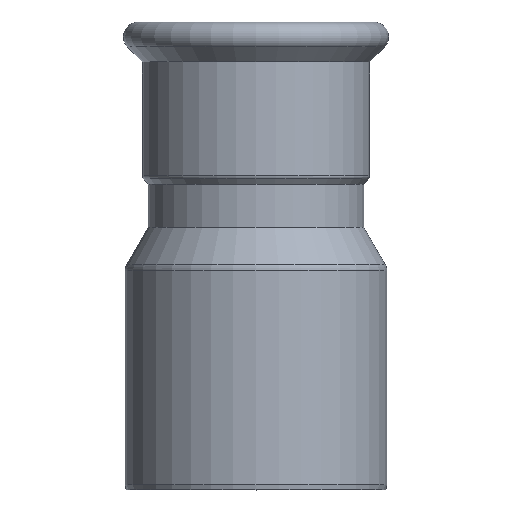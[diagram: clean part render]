
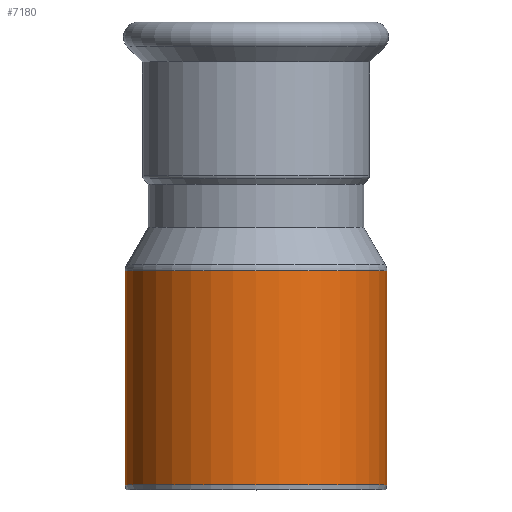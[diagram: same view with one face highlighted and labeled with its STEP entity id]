
A CAD part, top view. The second image highlights one B-rep face of the part: STEP entity #7180.
In plain terms, the highlighted cylindrical face has radius 54 mm (diameter 108 mm), a partial arc.
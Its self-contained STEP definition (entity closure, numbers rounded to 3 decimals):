
#530=CARTESIAN_POINT('',(-256.976,-16.977,0.));
#540=VERTEX_POINT('',#530);
#570=CARTESIAN_POINT('',(-202.976,-16.977,0.));
#580=DIRECTION('',(0.,-1.,0.));
#590=DIRECTION('',(-1.,0.,0.));
#600=AXIS2_PLACEMENT_3D('',#570,#580,#590);
#610=CIRCLE('',#600,54.);
#620=CARTESIAN_POINT('',(-148.976,-16.977,0.));
#630=VERTEX_POINT('',#620);
#1970=CARTESIAN_POINT('',(-202.976,33.421,0.));
#1980=DIRECTION('',(0.,-1.,0.));
#1990=DIRECTION('',(1.,0.,0.));
#2000=AXIS2_PLACEMENT_3D('',#1970,#1980,#1990);
#2010=CYLINDRICAL_SURFACE('',#2000,54.);
#2020=CARTESIAN_POINT('',(-256.976,33.421,
0.));
#2030=DIRECTION('',(0.,-1.,0.));
#2040=VECTOR('',#2030,1.);
#2050=LINE('',#2020,#2040);
#2060=CARTESIAN_POINT('',(-256.976,-105.379,
0.));
#2070=VERTEX_POINT('',#2060);
#2080=EDGE_CURVE('',#540,#2070,#2050,.T.);
#2100=CARTESIAN_POINT('',(-202.976,-105.379,0.));
#2110=DIRECTION('',(0.,-1.,0.));
#2120=DIRECTION('',(-1.,0.,0.));
#2130=AXIS2_PLACEMENT_3D('',#2100,#2110,#2120);
#2140=CIRCLE('',#2130,54.);
#2150=CARTESIAN_POINT('',(-148.976,-105.379,0.));
#2160=VERTEX_POINT('',#2150);
#2190=CARTESIAN_POINT('',(-148.976,33.421,0.));
#2200=DIRECTION('',(0.,-1.,0.));
#2210=VECTOR('',#2200,1.);
#2220=LINE('',#2190,#2210);
#2230=EDGE_CURVE('',#630,#2160,#2220,.T.);
#7100=EDGE_CURVE('',#2160,#2070,#2140,.T.);
#7110=ORIENTED_EDGE('',*,*,#7100,.F.);
#7120=ORIENTED_EDGE('',*,*,#2080,.T.);
#7130=EDGE_CURVE('',#630,#540,#610,.T.);
#7140=ORIENTED_EDGE('',*,*,#7130,.T.);
#7150=ORIENTED_EDGE('',*,*,#2230,.F.);
#7160=EDGE_LOOP('',(#7150,#7140,#7120,#7110));
#7170=FACE_OUTER_BOUND('',#7160,.T.);
#7180=ADVANCED_FACE('',(#7170),#2010,.T.);
